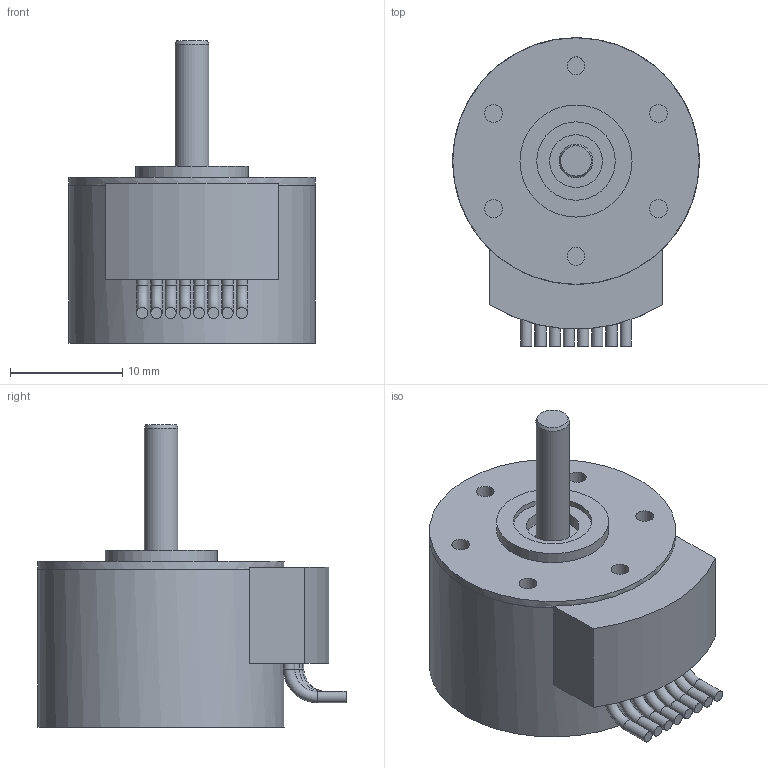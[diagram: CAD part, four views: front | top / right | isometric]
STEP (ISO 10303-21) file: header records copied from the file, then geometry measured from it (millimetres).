
FILE_DESCRIPTION(/* description */ (''),/* implementation_level */ '2;1');
FILE_NAME(/* name */ '2214.BXTH.stp',/* time_stamp */ '2019-07-24T08:33:32+02:00',/* author */ ('DR. FRITZ FAULHABER GmbH & Co. KG'),/* organization */ ('DR. FRITZ FAULHABER GmbH & Co. KG'),/* preprocessor_version */ 'ST-DEVELOPER v16.7',/* originating_system */ 'SIEMENS PLM Software NX 12.0',/* authorisation */ '');
FILE_SCHEMA (('AUTOMOTIVE_DESIGN { 1 0 10303 214 3 1 1 1 }'));
Length unit declared in the file: millimetre
Products named in the file (1): H00001426-B-2214.0H002
Bounding box: 22 x 27.5 x 27 mm (x, y, z)
Volume: 6333.1 mm3; surface area: 2410.4 mm2
Topology: 1 solids, 1 shells, 65 faces, 118 edges, 73 vertices
Faces by surface type: cylinder 30, plane 26, torus 8, cone 1
Full cylindrical faces by diameter (mm): 1 x16, 1.6 x6, 3 x1, 4.7 x1, 7 x1, 10 x1, 22 x2
Entity records: 1420 total; most frequent: DIRECTION 274, CARTESIAN_POINT 216, ORIENTED_EDGE 158, AXIS2_PLACEMENT_3D 129, EDGE_LOOP 120, FACE_BOUND 97, EDGE_CURVE 79, VERTEX_POINT 71
